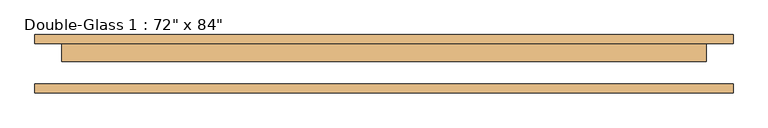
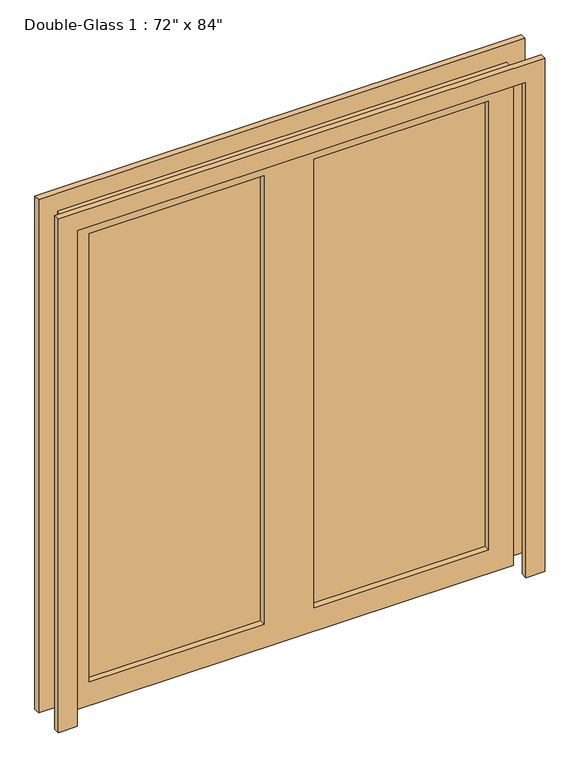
"""IFC4 building model written with IfcOpenShell, lengths in millimetres: door geometry."""

from ifc_helpers import new_model, si_unit, frame, origin, place, context, project, spatial, polyline, outline, extrude, source, transform, mapped, element, save


def door_1b837e8a(model_context):
    return source(origin(), model_context, "Body", "SweptSolid", [
        extrude(outline(polyline([(0.0, 990.6), (2209.8, 990.6), (2209.8, -990.6), (0.0, -990.6), (0.0, -914.4), (2133.6, -914.4), (2133.6, 914.4), (0.0, 914.4), (0.0, 990.6)])), frame((0.0, -80.16875, 0.0), z_axis=(0.0, 1.0, 0.0), x_axis=(0.0, 0.0, 1.0)), (0.0, 0.0, 1.0), 25.4),
        extrude(outline(polyline([(2133.6, 914.4), (0.0, 914.4), (0.0, 990.6), (2209.8, 990.6), (2209.8, -990.6), (0.0, -990.6), (0.0, -914.4), (2133.6, -914.4), (2133.6, 914.4)])), frame((0.0, 59.53125, 0.0), z_axis=(0.0, 1.0, 0.0), x_axis=(0.0, 0.0, 1.0)), (0.0, 0.0, 1.0), 25.4),
        extrude(outline(polyline([(812.8, 34.13125), (101.6, 34.13125), (101.6, 41.275), (812.8, 41.275), (812.8, 34.13125)])), frame((0.0, 0.0, 101.6), z_axis=(0.0, 0.0, 1.0), x_axis=(1.0, 0.0, 0.0)), (0.0, 0.0, 1.0), 1930.4),
        extrude(outline(polyline([(-101.6, 34.13125), (-812.8, 34.13125), (-812.8, 41.275), (-101.6, 41.275), (-101.6, 34.13125)])), frame((0.0, 0.0, 101.6), z_axis=(0.0, 0.0, 1.0), x_axis=(1.0, 0.0, 0.0)), (0.0, 0.0, 1.0), 1930.4),
        extrude(outline(polyline([(2133.6, 914.4), (2133.6, -914.4), (0.0, -914.4), (0.0, 914.4), (2133.6, 914.4)]), holes=[polyline([(2032.0, -101.6), (101.6, -101.6), (101.6, -812.8), (2032.0, -812.8), (2032.0, -101.6)]), polyline([(2032.0, 812.8), (101.6, 812.8), (101.6, 101.6), (2032.0, 101.6), (2032.0, 812.8)])]), frame((0.0, 8.73125, 0.0), z_axis=(0.0, 1.0, 0.0), x_axis=(0.0, 0.0, 1.0)), (0.0, 0.0, 1.0), 50.8),
    ])


if __name__ == "__main__":
    model = new_model("IFC4")
    model_context = context("Model", 3, world=origin())
    ifc_project = project(units=[si_unit("LENGTHUNIT", "METRE", prefix="MILLI")], contexts=[model_context])
    site = spatial("IfcSite", under=ifc_project)
    building = spatial("IfcBuilding", under=site)
    placement = place(None, origin())
    door_shape = door_1b837e8a(model_context)
    element("IfcDoor", 1, ObjectType="Double-Glass 1 : 72\" x 84\"", at=placement, inside=building, context=model_context, shape_type="MappedRepresentation", body=[
        mapped(door_shape, transform((0.0, 0.0, 0.0), x_axis=(1.0, 0.0, 0.0), y_axis=(0.0, 1.0, 0.0), z_axis=(0.0, 0.0, 1.0))),
    ])
    save(model, "model.ifc")
